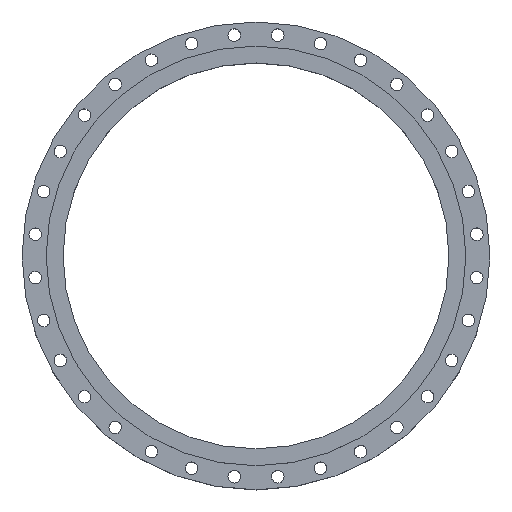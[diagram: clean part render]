
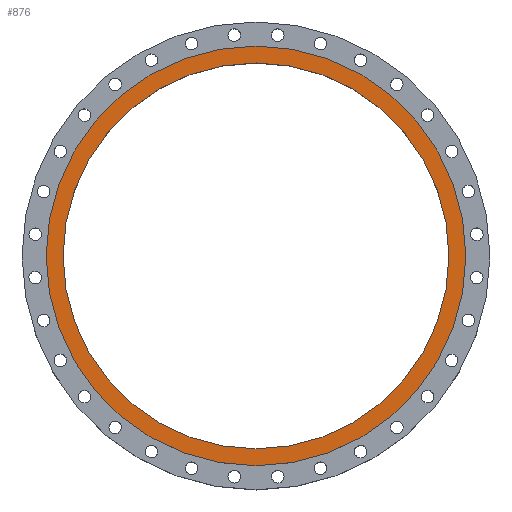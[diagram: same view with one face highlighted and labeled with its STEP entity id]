
A CAD part, top view. The second image highlights one B-rep face of the part: STEP entity #876.
In plain terms, the highlighted planar face has unit normal (0, 0, 1).
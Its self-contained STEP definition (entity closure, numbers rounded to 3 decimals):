
#876=ADVANCED_FACE('',(#1995,#1997),#1999,.T.);
#1995=FACE_BOUND('',#1996,.T.);
#1996=EDGE_LOOP('',(#2420));
#1997=FACE_BOUND('',#1998,.T.);
#1998=EDGE_LOOP('',(#2421));
#1999=PLANE('',#2000);
#2000=AXIS2_PLACEMENT_3D('',#2001,#2002,#2003);
#2001=CARTESIAN_POINT('',(0.,0.,132.5));
#2002=DIRECTION('',(0.,0.,1.));
#2003=DIRECTION('',(0.,1.,0.));
#2420=ORIENTED_EDGE('',*,*,#2614,.F.);
#2421=ORIENTED_EDGE('',*,*,#2616,.T.);
#2614=EDGE_CURVE('',#2968,#2968,#2969,.T.);
#2616=EDGE_CURVE('',#2972,#2972,#2973,.T.);
#2968=VERTEX_POINT('',#5002);
#2969=CIRCLE('',#5003,652.5);
#2972=VERTEX_POINT('',#5012);
#2973=CIRCLE('',#5013,600.);
#5002=CARTESIAN_POINT('',(0.,652.5,132.5));
#5003=AXIS2_PLACEMENT_3D('',#5004,#5005,#5006);
#5004=CARTESIAN_POINT('',(0.,0.,132.5));
#5005=DIRECTION('',(0.,0.,-1.));
#5006=DIRECTION('',(0.,1.,0.));
#5012=CARTESIAN_POINT('',(0.,600.,132.5));
#5013=AXIS2_PLACEMENT_3D('',#5014,#5015,#5016);
#5014=CARTESIAN_POINT('',(0.,0.,132.5));
#5015=DIRECTION('',(0.,0.,-1.));
#5016=DIRECTION('',(0.,1.,0.));
